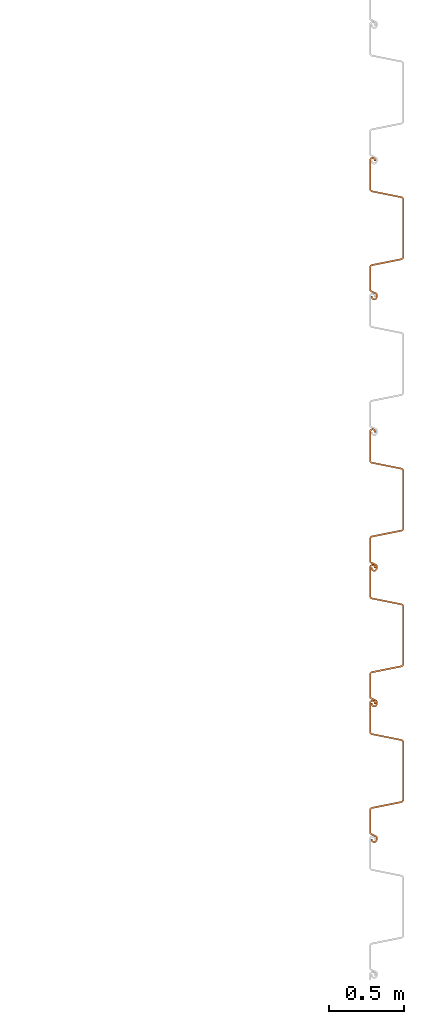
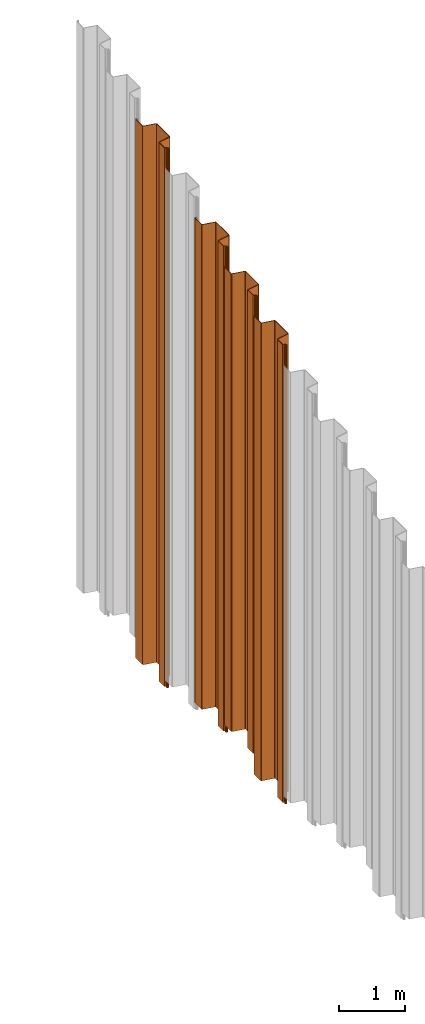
# One storey, part 11 of 12: 4 proxies.
"""IFC2X3 building model written with IfcOpenShell, lengths in millimetres."""

import ifcopenshell
import ifcopenshell.guid

model = None  # the IFC model being written
_history = None  # IfcOwnerHistory: only IFC2X3 demands one
_inside = {}  # id of a spatial element -> (the spatial element, [elements in it])
_under = {}  # id of a project, library or spatial element -> (it, [spatial elements below it])
_declared = {}  # id of a project -> (the project, [libraries it declares])
_typed = {}  # id of a type object -> (the type object, [elements of that type])
_made_of = {}  # id of a material, layer set ... -> (it, [elements and type objects made of it])


def new_model(schema):
    """Start an empty IFC model of exactly this schema.

    Asked for "IFC4X3", IfcOpenShell would pick the latest addendum, in which some entities
    have other attributes; the version numbers below select the first issue.
    IFC2X3 requires an IfcOwnerHistory on every rooted entity: one is made here for all.
    """
    global model, _history
    if schema == "IFC4X3":
        model = ifcopenshell.file(schema_version=(4, 3, 0, 0))
    else:
        model = ifcopenshell.file(schema=schema)
    _inside.clear()
    _under.clear()
    _declared.clear()
    _typed.clear()
    _made_of.clear()
    _history = None
    if model.schema == "IFC2X3":
        org = make("IfcOrganization", Name="unknown")
        user = make(
            "IfcPersonAndOrganization",
            ThePerson=make("IfcPerson", FamilyName="unknown"),
            TheOrganization=org,
        )
        app = make(
            "IfcApplication",
            ApplicationDeveloper=org,
            Version="unknown",
            ApplicationFullName="unknown",
            ApplicationIdentifier="unknown",
        )
        _history = make(
            "IfcOwnerHistory",
            OwningUser=user,
            OwningApplication=app,
            ChangeAction="ADDED",
            CreationDate=0,
        )
    return model


def make(cls, **values):
    """One entity of the class cls with the attributes given. An attribute that is None is left unset."""
    return model.create_entity(
        cls, **{name: value for name, value in values.items() if value is not None}
    )


def entity(cls, *values):
    """Any entity or typed value of the class cls, its attributes in the order of the schema. None: left unset."""
    e = model.create_entity(cls)
    for i, value in enumerate(values):
        if value is not None:
            e[i] = value
    return e


def rooted(cls, **values):
    """An entity with a GlobalId (a new one), such as an element, a storey or a relation."""
    return make(cls, GlobalId=ifcopenshell.guid.new(), OwnerHistory=_history, **values)


def si_unit(unit_type, name, prefix=None):
    """IfcSIUnit, for example si_unit("LENGTHUNIT", "METRE", prefix="MILLI")."""
    return make("IfcSIUnit", UnitType=unit_type, Prefix=prefix, Name=name)


def converted_unit(unit_type, name, factor, base, dimensions=None, offset=None):
    """IfcConversionBasedUnit, such as the inch: factor (a typed value) times the base unit."""
    return make(
        "IfcConversionBasedUnit"
        if offset is None
        else "IfcConversionBasedUnitWithOffset",
        ConversionOffset=offset,
        Dimensions=None
        if dimensions is None
        else entity("IfcDimensionalExponents", *dimensions),
        UnitType=unit_type,
        Name=name,
        ConversionFactor=make(
            "IfcMeasureWithUnit", ValueComponent=factor, UnitComponent=base
        ),
    )


def derived_unit(unit_type, elements):
    """IfcDerivedUnit: a product of units, each with its exponent."""
    return make(
        "IfcDerivedUnit",
        Elements=[
            make("IfcDerivedUnitElement", Unit=unit, Exponent=power)
            for unit, power in elements
        ],
        UnitType=unit_type,
    )


def assignment(units):
    """IfcUnitAssignment: the units of a project."""
    return None if units is None else make("IfcUnitAssignment", Units=units)


def point(xyz):
    """IfcCartesianPoint."""
    return None if xyz is None else make("IfcCartesianPoint", Coordinates=xyz)


def direction(xyz):
    """IfcDirection."""
    return None if xyz is None else make("IfcDirection", DirectionRatios=xyz)


def frame(location, z_axis=None, x_axis=None):
    """IfcAxis2Placement3D, a coordinate frame: its origin and axes. An axis left out is left unset."""
    return make(
        "IfcAxis2Placement3D",
        Location=point(location),
        Axis=direction(z_axis),
        RefDirection=direction(x_axis),
    )


def frame_2d(location, x_axis=None):
    """IfcAxis2Placement2D, a coordinate frame in the plane: its origin and x axis."""
    return make(
        "IfcAxis2Placement2D", Location=point(location), RefDirection=direction(x_axis)
    )


def origin():
    """The frame at (0, 0, 0) with its axes left unset."""
    return frame((0.0, 0.0, 0.0))


def place(relative_to, where):
    """IfcLocalPlacement: puts the frame where relative to a parent placement (None: the world)."""
    return make(
        "IfcLocalPlacement", PlacementRelTo=relative_to, RelativePlacement=where
    )


def context(
    kind, dimensions, precision=None, world=None, true_north=None, identifier=None
):
    """IfcGeometricRepresentationContext, for example the 3D "Model" context."""
    return make(
        "IfcGeometricRepresentationContext",
        ContextIdentifier=identifier,
        ContextType=kind,
        CoordinateSpaceDimension=dimensions,
        Precision=precision,
        WorldCoordinateSystem=world,
        TrueNorth=true_north,
    )


def subcontext(parent, identifier, kind, view, scale=None):
    """IfcGeometricRepresentationSubContext, for example "Body" below "Model"."""
    return make(
        "IfcGeometricRepresentationSubContext",
        ContextIdentifier=identifier,
        ContextType=kind,
        ParentContext=parent,
        TargetScale=scale,
        TargetView=view,
    )


def project(units=None, contexts=None):
    """IfcProject with its units and contexts."""
    return rooted(
        "IfcProject",
        Name="project",
        RepresentationContexts=contexts,
        UnitsInContext=assignment(units),
    )


def spatial(cls, under=None, at=None, **own):
    """A site, building, storey or space (cls), placed at a placement, below another one or the project."""
    s = rooted(cls, ObjectPlacement=at, **own)
    if under is not None:
        _under.setdefault(under.id(), (under, []))[1].append(s)
    return s


def polyline(points):
    """IfcPolyline through the points."""
    return make("IfcPolyline", Points=[point(p) for p in points])


def circle_curve(where, radius):
    """IfcCircle in the frame where."""
    return make("IfcCircle", Position=where, Radius=radius)


def parameter(value):
    """IfcParameterValue: where a trimmed curve begins or ends, as a parameter of its basis curve."""
    return model.create_entity("IfcParameterValue", value)


def trimmed(basis, trim1, trim2, sense, master):
    """IfcTrimmedCurve: the piece of a basis curve between two trims."""
    return make(
        "IfcTrimmedCurve",
        BasisCurve=basis,
        Trim1=trim1,
        Trim2=trim2,
        SenseAgreement=sense,
        MasterRepresentation=master,
    )


def segment(curve, same_sense, transition):
    """IfcCompositeCurveSegment."""
    return make(
        "IfcCompositeCurveSegment",
        Transition=transition,
        SameSense=same_sense,
        ParentCurve=curve,
    )


def composite_curve(segments, self_intersect=None):
    """IfcCompositeCurve: segments joined end to end."""
    return make("IfcCompositeCurve", Segments=segments, SelfIntersect=self_intersect)


def outline(outer, holes=None, kind="AREA"):
    """IfcArbitraryClosedProfileDef: a profile drawn as a closed curve; with holes, ...WithVoids."""
    if holes is None:
        return make("IfcArbitraryClosedProfileDef", ProfileType=kind, OuterCurve=outer)
    return make(
        "IfcArbitraryProfileDefWithVoids",
        ProfileType=kind,
        OuterCurve=outer,
        InnerCurves=holes,
    )


def extrude(swept, where, along, depth):
    """IfcExtrudedAreaSolid: the profile swept, set in the frame where, extruded along a direction by depth."""
    return make(
        "IfcExtrudedAreaSolid",
        SweptArea=swept,
        Position=where,
        ExtrudedDirection=direction(along),
        Depth=depth,
    )


def shape(context_of_items, identifier, shape_type, items):
    """IfcShapeRepresentation: the items that make up one representation, for example the "Body"."""
    return make(
        "IfcShapeRepresentation",
        ContextOfItems=context_of_items,
        RepresentationIdentifier=identifier,
        RepresentationType=shape_type,
        Items=items,
    )


def source(mapping_origin, context_of_items, identifier, shape_type, items):
    """IfcRepresentationMap: a shape defined once, which mapped items show again and again."""
    return make(
        "IfcRepresentationMap",
        MappingOrigin=mapping_origin,
        MappedRepresentation=shape(context_of_items, identifier, shape_type, items),
    )


def transform(
    local_origin,
    x_axis=None,
    y_axis=None,
    z_axis=None,
    scale=None,
    scale2=None,
    scale3=None,
    uniform=True,
):
    """IfcCartesianTransformationOperator3D, or its non-uniform kind. x_axis, y_axis, z_axis: its Axis1, 2, 3."""
    if uniform:
        return make(
            "IfcCartesianTransformationOperator3D",
            Axis1=direction(x_axis),
            Axis2=direction(y_axis),
            LocalOrigin=point(local_origin),
            Scale=scale,
            Axis3=direction(z_axis),
        )
    return make(
        "IfcCartesianTransformationOperator3DnonUniform",
        Axis1=direction(x_axis),
        Axis2=direction(y_axis),
        LocalOrigin=point(local_origin),
        Scale=scale,
        Axis3=direction(z_axis),
        Scale2=scale2,
        Scale3=scale3,
    )


def mapped(mapping_source, mapping_target):
    """IfcMappedItem: shows the shape of a source again, moved by a transform."""
    return make(
        "IfcMappedItem", MappingSource=mapping_source, MappingTarget=mapping_target
    )


def material(Name=None, Category=None):
    """IfcMaterial."""
    return make("IfcMaterial", Name=Name, Category=Category)


def made_of(thing, what):
    """Note that an element or type object is made of a material, layer set ...; save() writes the relation."""
    if what is not None:
        _made_of.setdefault(what.id(), (what, []))[1].append(thing)
    return thing


def type_object(cls, material=None, **own):
    """A type object (cls), such as IfcWallType, which elements share."""
    return made_of(rooted(cls, **own), material)


def type_shapes(of_type, sources):
    """Give a type object the sources (RepresentationMaps) that its elements show as mapped items."""
    of_type.RepresentationMaps = sources


def element(
    cls,
    number,
    at=None,
    inside=None,
    cuts=None,
    type_object=None,
    material=None,
    context=None,
    identifier="Body",
    shape_type=None,
    held_by="IfcProductDefinitionShape",
    body=None,
    shapes=None,
    **own,
):
    """One element of the class cls, such as IfcWall. Its Tag is "e" and its number.

    at: its placement. inside: the storey or other place that contains it. cuts: it is an
    opening in that element (IfcRelVoidsElement). A single representation is given by context,
    identifier, shape_type and body (its items); several are given by shapes. held_by: the class
    of the entity that holds the representations. save() writes the other relations.
    """
    e = rooted(cls, Tag="e%d" % number, ObjectPlacement=at, **own)
    if body is not None:
        shapes = [shape(context, identifier, shape_type, body)]
    if shapes is not None:
        e.Representation = make(held_by, Representations=shapes)
    if inside is not None:
        _inside.setdefault(inside.id(), (inside, []))[1].append(e)
    if cuts is not None:
        rooted(
            "IfcRelVoidsElement", RelatingBuildingElement=cuts, RelatedOpeningElement=e
        )
    if type_object is not None:
        _typed.setdefault(type_object.id(), (type_object, []))[1].append(e)
    return made_of(e, material)


def aggregate(whole, parts):
    """IfcRelAggregates: a whole, such as a stair, and the parts it consists of."""
    return rooted("IfcRelAggregates", RelatingObject=whole, RelatedObjects=parts)


def save(model, path):
    """Write the relations noted so far, then the file.

    IfcRelAggregates (storeys below a building ...), IfcRelContainedInSpatialStructure (elements
    in a storey), IfcRelDefinesByType, IfcRelAssociatesMaterial and IfcRelDeclares: one each for
    every whole, place, type object, material and project.
    """
    for whole, parts in _under.values():
        aggregate(whole, parts)
    for where, things in _inside.values():
        rooted(
            "IfcRelContainedInSpatialStructure",
            RelatedElements=things,
            RelatingStructure=where,
        )
    for kind, things in _typed.values():
        rooted("IfcRelDefinesByType", RelatedObjects=things, RelatingType=kind)
    for what, things in _made_of.values():
        rooted("IfcRelAssociatesMaterial", RelatedObjects=things, RelatingMaterial=what)
    for by, libraries in _declared.values():
        rooted("IfcRelDeclares", RelatingContext=by, RelatedDefinitions=libraries)
    model.write(path)


model = new_model("IFC2X3")

# Units and contexts
model_context = context("Model", 3, precision=0.01, world=origin(), true_north=direction((6.12303176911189e-17, 1.0)))
body_context = subcontext(model_context, "Body", "Model", "MODEL_VIEW")
ifc_project = project(units=[si_unit("LENGTHUNIT", "METRE", prefix="MILLI"), si_unit("AREAUNIT", "SQUARE_METRE"), si_unit("VOLUMEUNIT", "CUBIC_METRE"), converted_unit("PLANEANGLEUNIT", "DEGREE", entity("IfcRatioMeasure", 0.0174532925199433), si_unit("PLANEANGLEUNIT", "RADIAN"), dimensions=[0, 0, 0, 0, 0, 0, 0]), si_unit("MASSUNIT", "GRAM", prefix="KILO"), derived_unit("MASSDENSITYUNIT", [(si_unit("MASSUNIT", "GRAM", prefix="KILO"), 1), (si_unit("LENGTHUNIT", "METRE"), -3)]), derived_unit("MOMENTOFINERTIAUNIT", [(si_unit("LENGTHUNIT", "METRE"), 4)]), si_unit("TIMEUNIT", "SECOND"), si_unit("FREQUENCYUNIT", "HERTZ"), si_unit("THERMODYNAMICTEMPERATUREUNIT", "DEGREE_CELSIUS"), derived_unit("THERMALTRANSMITTANCEUNIT", [(si_unit("MASSUNIT", "GRAM", prefix="KILO"), 1), (si_unit("THERMODYNAMICTEMPERATUREUNIT", "KELVIN"), -1), (si_unit("TIMEUNIT", "SECOND"), -3)]), derived_unit("VOLUMETRICFLOWRATEUNIT", [(si_unit("LENGTHUNIT", "METRE"), 3), (si_unit("TIMEUNIT", "SECOND"), -1)]), si_unit("ELECTRICCURRENTUNIT", "AMPERE"), si_unit("ELECTRICVOLTAGEUNIT", "VOLT"), si_unit("POWERUNIT", "WATT"), si_unit("FORCEUNIT", "NEWTON", prefix="KILO"), si_unit("ILLUMINANCEUNIT", "LUX"), si_unit("LUMINOUSFLUXUNIT", "LUMEN"), si_unit("LUMINOUSINTENSITYUNIT", "CANDELA"), derived_unit("USERDEFINED", [(si_unit("MASSUNIT", "GRAM", prefix="KILO"), -1), (si_unit("LENGTHUNIT", "METRE"), -2), (si_unit("TIMEUNIT", "SECOND"), 3), (si_unit("LUMINOUSFLUXUNIT", "LUMEN"), 1)]), derived_unit("LINEARVELOCITYUNIT", [(si_unit("LENGTHUNIT", "METRE"), 1), (si_unit("TIMEUNIT", "SECOND"), -1)]), si_unit("PRESSUREUNIT", "PASCAL"), derived_unit("USERDEFINED", [(si_unit("LENGTHUNIT", "METRE"), -2), (si_unit("MASSUNIT", "GRAM", prefix="KILO"), 1), (si_unit("TIMEUNIT", "SECOND"), -2)]), derived_unit("LINEARFORCEUNIT", [(si_unit("MASSUNIT", "GRAM", prefix="KILO"), 1), (si_unit("LENGTHUNIT", "METRE"), 1), (si_unit("TIMEUNIT", "SECOND"), -2), (si_unit("LENGTHUNIT", "METRE"), -1)]), derived_unit("PLANARFORCEUNIT", [(si_unit("MASSUNIT", "GRAM", prefix="KILO"), 1), (si_unit("LENGTHUNIT", "METRE"), 1), (si_unit("TIMEUNIT", "SECOND"), -2), (si_unit("LENGTHUNIT", "METRE"), -2)])], contexts=[model_context])

# Site, building, storey
site_placement = place(None, origin())
site = spatial("IfcSite", under=ifc_project, at=site_placement, Name="Default", CompositionType="ELEMENT")
building_placement = place(site_placement, origin())
building = spatial("IfcBuilding", under=site, at=building_placement, CompositionType="ELEMENT")
storey_placement = place(building_placement, frame((0.0, 0.0, 10600.0)))
storey = spatial("IfcBuildingStorey", under=building, at=storey_placement, Name="AP+10.600", CompositionType="ELEMENT", Elevation=10600.0)

# Proxies
ifc_material = material(Name="<Unnamed>")
building_element_proxy_type_1 = type_object("IfcBuildingElementProxyType", Name="鋼矢板10H型:鋼矢板10H型", PredefinedType="NOTDEFINED", material=ifc_material)
shared_shape_1 = source(origin(), body_context, "Body", "SweptSolid", [
    extrude(outline(composite_curve([segment(trimmed(circle_curve(frame_2d((85.3662976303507, 306.644432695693), x_axis=(0.422618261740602, 0.906307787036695)), 13.885714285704), [parameter(24.9999999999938)], [parameter(90.0000000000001)], True, "PARAMETER"), True, "CONTINUOUS"), segment(polyline([(72.7815666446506, 312.512789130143), (9.8129512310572, 177.476157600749)]), True, "CONTINUOUS"), segment(trimmed(circle_curve(frame_2d((29.3891994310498, 168.347603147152), x_axis=(0.422618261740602, 0.906307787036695)), 21.6), [parameter(90.0000000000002)], [parameter(168.69006752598)], True, "PARAMETER"), True, "CONTINUOUS"), segment(polyline([(16.598697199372, 150.941769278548), (175.329723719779, 34.2998683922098)]), True, "CONTINUOUS"), segment(trimmed(circle_curve(frame_2d((168.93447260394, 25.596951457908), x_axis=(0.422618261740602, 0.906307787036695)), 10.7999999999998), [parameter(270.0)], [parameter(348.690067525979)], True, "PARAMETER"), False, "CONTINUOUS"), segment(polyline([(178.722596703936, 21.0326742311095), (18.2974003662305, -323.000269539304)]), True, "CONTINUOUS"), segment(trimmed(circle_curve(frame_2d((8.50927626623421, -318.435992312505), x_axis=(0.422618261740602, 0.906307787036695)), 10.8), [parameter(191.30993247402)], [parameter(269.999999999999)], True, "PARAMETER"), False, "CONTINUOUS"), segment(polyline([(5.95324328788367, -328.929166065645), (-185.429973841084, -282.310113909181)]), True, "CONTINUOUS"), segment(trimmed(circle_curve(frame_2d((-190.542039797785, -303.296461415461), x_axis=(0.422618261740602, 0.906307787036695)), 21.6000000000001), [parameter(11.3099324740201)], [parameter(90.0000000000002)], True, "PARAMETER"), True, "CONTINUOUS"), segment(polyline([(-210.118287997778, -294.167906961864), (-290.330886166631, -466.184378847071)]), True, "CONTINUOUS"), segment(trimmed(circle_curve(frame_2d((-270.754637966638, -475.312933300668), x_axis=(0.422618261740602, 0.906307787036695)), 21.6), [parameter(90.0000000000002)], [parameter(269.999999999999)], True, "PARAMETER"), True, "CONTINUOUS"), segment(polyline([(-251.178389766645, -484.441487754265), (-249.065298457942, -479.909948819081)]), True, "CONTINUOUS"), segment(polyline([(-249.065298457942, -479.909948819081), (-258.853422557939, -475.345671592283)]), True, "CONTINUOUS"), segment(polyline([(-258.853422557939, -475.345671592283), (-260.966513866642, -479.877210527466)]), True, "CONTINUOUS"), segment(trimmed(circle_curve(frame_2d((-270.754637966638, -475.312933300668), x_axis=(0.422618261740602, 0.906307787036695)), 10.8), [parameter(90.0000000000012)], [parameter(270.0)], True, "PARAMETER"), False, "CONTINUOUS"), segment(polyline([(-280.542762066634, -470.748656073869), (-200.330163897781, -298.732184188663)]), True, "CONTINUOUS"), segment(trimmed(circle_curve(frame_2d((-190.542039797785, -303.296461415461), x_axis=(0.422618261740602, 0.906307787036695)), 10.8), [parameter(11.3099324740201)], [parameter(89.9999999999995)], True, "PARAMETER"), False, "CONTINUOUS"), segment(polyline([(-187.986006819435, -292.803287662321), (3.39721030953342, -339.422339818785)]), True, "CONTINUOUS"), segment(trimmed(circle_curve(frame_2d((8.50927626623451, -318.435992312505), x_axis=(0.422618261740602, 0.906307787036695)), 21.6), [parameter(191.30993247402)], [parameter(270.0)], True, "PARAMETER"), True, "CONTINUOUS"), segment(polyline([(28.0855244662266, -327.564546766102), (188.510720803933, 16.4683970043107)]), True, "CONTINUOUS"), segment(trimmed(circle_curve(frame_2d((168.93447260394, 25.5969514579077), x_axis=(0.422618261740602, 0.906307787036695)), 21.6), [parameter(270.0)], [parameter(348.69006752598)], True, "PARAMETER"), True, "CONTINUOUS"), segment(polyline([(181.724974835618, 43.0027853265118), (22.9939483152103, 159.644686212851)]), True, "CONTINUOUS"), segment(trimmed(circle_curve(frame_2d((29.3891994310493, 168.347603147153), x_axis=(0.422618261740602, 0.906307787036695)), 10.7999999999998), [parameter(89.9999999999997)], [parameter(168.690067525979)], True, "PARAMETER"), False, "CONTINUOUS"), segment(polyline([(19.6010753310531, 172.911880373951), (82.5696907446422, 307.948511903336)]), True, "CONTINUOUS"), segment(trimmed(circle_curve(frame_2d((85.3662976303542, 306.64443269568), x_axis=(0.422618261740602, 0.906307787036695)), 3.08571428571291), [parameter(25.0000000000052)], [parameter(90.0000000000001)], True, "PARAMETER"), False, "CONTINUOUS"), segment(polyline([(85.3662976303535, 309.730146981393), (122.220231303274, 309.730146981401)]), True, "CONTINUOUS"), segment(trimmed(circle_curve(frame_2d((122.220231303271, 323.615861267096), x_axis=(0.422618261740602, 0.906307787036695)), 13.8857142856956), [parameter(205.000000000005)], [parameter(270.0)], True, "PARAMETER"), True, "CONTINUOUS"), segment(polyline([(134.804962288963, 317.747504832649), (141.079261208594, 331.202782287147)]), True, "CONTINUOUS"), segment(trimmed(circle_curve(frame_2d((121.503013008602, 340.331336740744), x_axis=(0.422618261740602, 0.906307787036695)), 21.6), [parameter(270.0)], [parameter(90.0000000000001)], True, "PARAMETER"), True, "CONTINUOUS"), segment(polyline([(101.926764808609, 349.459891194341), (99.8136734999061, 344.928352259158)]), True, "CONTINUOUS"), segment(polyline([(99.8136734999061, 344.928352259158), (109.601797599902, 340.364075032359)]), True, "CONTINUOUS"), segment(polyline([(109.601797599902, 340.364075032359), (111.714888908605, 344.895613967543)]), True, "CONTINUOUS"), segment(trimmed(circle_curve(frame_2d((121.503013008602, 340.331336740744), x_axis=(0.422618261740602, 0.906307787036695)), 10.8), [parameter(270.0)], [parameter(89.9999999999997)], True, "PARAMETER"), False, "CONTINUOUS"), segment(polyline([(131.291137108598, 335.767059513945), (125.01683818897, 322.311782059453)]), True, "CONTINUOUS"), segment(trimmed(circle_curve(frame_2d((122.220231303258, 323.615861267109), x_axis=(0.422618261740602, 0.906307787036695)), 3.08571428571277), [parameter(204.999999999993)], [parameter(270.0)], True, "PARAMETER"), False, "CONTINUOUS"), segment(polyline([(122.220231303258, 320.530146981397), (85.3662976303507, 320.530146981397)]), True, "CONTINUOUS")], self_intersect=False)), frame((95.205667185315, -48.8888888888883, -8500.0), z_axis=(0.0, 0.0, -1.0), x_axis=(0.4226182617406, 0.906307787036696, 0.0)), (0.0, 0.0, -1.0), 8500.0),
])
type_shapes(building_element_proxy_type_1, [shared_shape_1])
for number, where, z_axis, x_axis in (
    (1, (89754.0, -4895.0, 3694.15268431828), (0.0, 0.0, 1.0), (0.0, -1.0, 0.0)),
    (2, (89754.0, -5795.0, 3326.25268431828), (0.0, 0.0, 1.0), (0.0, -1.0, 0.0)),
):
    element("IfcBuildingElementProxy", number, at=place(storey_placement, frame(where, z_axis=z_axis, x_axis=x_axis)), inside=storey, type_object=building_element_proxy_type_1, material=ifc_material, Name="鋼矢板10H型:鋼矢板10H型", ObjectType="鋼矢板10H型:鋼矢板10H型", context=body_context, shape_type="MappedRepresentation", body=[
        mapped(shared_shape_1, transform((0.0, 0.0, 0.0), scale=1.0)),
    ])
building_element_proxy_type_2 = type_object("IfcBuildingElementProxyType", Name="鋼矢板10H型:鋼矢板10H型", PredefinedType="NOTDEFINED", material=ifc_material)
shared_shape_2 = source(origin(), body_context, "Body", "SweptSolid", [
    extrude(outline(composite_curve([segment(trimmed(circle_curve(frame_2d((85.3662976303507, 306.644432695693), x_axis=(0.422618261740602, 0.906307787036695)), 13.885714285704), [parameter(24.9999999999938)], [parameter(90.0000000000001)], True, "PARAMETER"), True, "CONTINUOUS"), segment(polyline([(72.7815666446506, 312.512789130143), (9.8129512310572, 177.476157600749)]), True, "CONTINUOUS"), segment(trimmed(circle_curve(frame_2d((29.3891994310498, 168.347603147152), x_axis=(0.422618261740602, 0.906307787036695)), 21.6), [parameter(90.0000000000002)], [parameter(168.69006752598)], True, "PARAMETER"), True, "CONTINUOUS"), segment(polyline([(16.598697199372, 150.941769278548), (175.329723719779, 34.2998683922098)]), True, "CONTINUOUS"), segment(trimmed(circle_curve(frame_2d((168.93447260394, 25.596951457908), x_axis=(0.422618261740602, 0.906307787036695)), 10.7999999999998), [parameter(270.0)], [parameter(348.690067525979)], True, "PARAMETER"), False, "CONTINUOUS"), segment(polyline([(178.722596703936, 21.0326742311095), (18.2974003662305, -323.000269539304)]), True, "CONTINUOUS"), segment(trimmed(circle_curve(frame_2d((8.50927626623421, -318.435992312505), x_axis=(0.422618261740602, 0.906307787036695)), 10.8), [parameter(191.30993247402)], [parameter(269.999999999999)], True, "PARAMETER"), False, "CONTINUOUS"), segment(polyline([(5.95324328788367, -328.929166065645), (-185.429973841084, -282.310113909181)]), True, "CONTINUOUS"), segment(trimmed(circle_curve(frame_2d((-190.542039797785, -303.296461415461), x_axis=(0.422618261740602, 0.906307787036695)), 21.6000000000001), [parameter(11.3099324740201)], [parameter(90.0000000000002)], True, "PARAMETER"), True, "CONTINUOUS"), segment(polyline([(-210.118287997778, -294.167906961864), (-290.330886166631, -466.184378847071)]), True, "CONTINUOUS"), segment(trimmed(circle_curve(frame_2d((-270.754637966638, -475.312933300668), x_axis=(0.422618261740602, 0.906307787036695)), 21.6), [parameter(90.0000000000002)], [parameter(269.999999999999)], True, "PARAMETER"), True, "CONTINUOUS"), segment(polyline([(-251.178389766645, -484.441487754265), (-249.065298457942, -479.909948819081)]), True, "CONTINUOUS"), segment(polyline([(-249.065298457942, -479.909948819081), (-258.853422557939, -475.345671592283)]), True, "CONTINUOUS"), segment(polyline([(-258.853422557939, -475.345671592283), (-260.966513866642, -479.877210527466)]), True, "CONTINUOUS"), segment(trimmed(circle_curve(frame_2d((-270.754637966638, -475.312933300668), x_axis=(0.422618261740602, 0.906307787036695)), 10.8), [parameter(90.0000000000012)], [parameter(270.0)], True, "PARAMETER"), False, "CONTINUOUS"), segment(polyline([(-280.542762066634, -470.748656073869), (-200.330163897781, -298.732184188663)]), True, "CONTINUOUS"), segment(trimmed(circle_curve(frame_2d((-190.542039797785, -303.296461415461), x_axis=(0.422618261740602, 0.906307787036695)), 10.8), [parameter(11.3099324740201)], [parameter(89.9999999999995)], True, "PARAMETER"), False, "CONTINUOUS"), segment(polyline([(-187.986006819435, -292.803287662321), (3.39721030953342, -339.422339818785)]), True, "CONTINUOUS"), segment(trimmed(circle_curve(frame_2d((8.50927626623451, -318.435992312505), x_axis=(0.422618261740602, 0.906307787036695)), 21.6), [parameter(191.30993247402)], [parameter(270.0)], True, "PARAMETER"), True, "CONTINUOUS"), segment(polyline([(28.0855244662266, -327.564546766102), (188.510720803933, 16.4683970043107)]), True, "CONTINUOUS"), segment(trimmed(circle_curve(frame_2d((168.93447260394, 25.5969514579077), x_axis=(0.422618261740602, 0.906307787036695)), 21.6), [parameter(270.0)], [parameter(348.69006752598)], True, "PARAMETER"), True, "CONTINUOUS"), segment(polyline([(181.724974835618, 43.0027853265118), (22.9939483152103, 159.644686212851)]), True, "CONTINUOUS"), segment(trimmed(circle_curve(frame_2d((29.3891994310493, 168.347603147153), x_axis=(0.422618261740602, 0.906307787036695)), 10.7999999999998), [parameter(89.9999999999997)], [parameter(168.690067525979)], True, "PARAMETER"), False, "CONTINUOUS"), segment(polyline([(19.6010753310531, 172.911880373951), (82.5696907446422, 307.948511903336)]), True, "CONTINUOUS"), segment(trimmed(circle_curve(frame_2d((85.3662976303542, 306.64443269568), x_axis=(0.422618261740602, 0.906307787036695)), 3.08571428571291), [parameter(25.0000000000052)], [parameter(90.0000000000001)], True, "PARAMETER"), False, "CONTINUOUS"), segment(polyline([(85.3662976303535, 309.730146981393), (122.220231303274, 309.730146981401)]), True, "CONTINUOUS"), segment(trimmed(circle_curve(frame_2d((122.220231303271, 323.615861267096), x_axis=(0.422618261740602, 0.906307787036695)), 13.8857142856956), [parameter(205.000000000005)], [parameter(270.0)], True, "PARAMETER"), True, "CONTINUOUS"), segment(polyline([(134.804962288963, 317.747504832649), (141.079261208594, 331.202782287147)]), True, "CONTINUOUS"), segment(trimmed(circle_curve(frame_2d((121.503013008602, 340.331336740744), x_axis=(0.422618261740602, 0.906307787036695)), 21.6), [parameter(270.0)], [parameter(90.0000000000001)], True, "PARAMETER"), True, "CONTINUOUS"), segment(polyline([(101.926764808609, 349.459891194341), (99.8136734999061, 344.928352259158)]), True, "CONTINUOUS"), segment(polyline([(99.8136734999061, 344.928352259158), (109.601797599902, 340.364075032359)]), True, "CONTINUOUS"), segment(polyline([(109.601797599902, 340.364075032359), (111.714888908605, 344.895613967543)]), True, "CONTINUOUS"), segment(trimmed(circle_curve(frame_2d((121.503013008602, 340.331336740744), x_axis=(0.422618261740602, 0.906307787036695)), 10.8), [parameter(270.0)], [parameter(89.9999999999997)], True, "PARAMETER"), False, "CONTINUOUS"), segment(polyline([(131.291137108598, 335.767059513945), (125.01683818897, 322.311782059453)]), True, "CONTINUOUS"), segment(trimmed(circle_curve(frame_2d((122.220231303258, 323.615861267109), x_axis=(0.422618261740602, 0.906307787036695)), 3.08571428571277), [parameter(204.999999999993)], [parameter(270.0)], True, "PARAMETER"), False, "CONTINUOUS"), segment(polyline([(122.220231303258, 320.530146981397), (85.3662976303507, 320.530146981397)]), True, "CONTINUOUS")], self_intersect=False)), frame((95.205667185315, -48.8888888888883, -9000.0), z_axis=(0.0, 0.0, -1.0), x_axis=(0.4226182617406, 0.906307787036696, 0.0)), (0.0, 0.0, -1.0), 9000.0),
])
type_shapes(building_element_proxy_type_2, [shared_shape_2])
proxy_1_placement = place(storey_placement, frame((89754.0, -3995.0, 4062.05268431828), z_axis=(0.0, 0.0, 1.0), x_axis=(0.0, -1.0, 0.0)))
element("IfcBuildingElementProxy", 3, at=proxy_1_placement, inside=storey, type_object=building_element_proxy_type_2, material=ifc_material, Name="鋼矢板10H型:鋼矢板10H型", ObjectType="鋼矢板10H型:鋼矢板10H型", context=body_context, shape_type="MappedRepresentation", body=[
    mapped(shared_shape_2, transform((0.0, 0.0, 0.0), scale=1.0)),
])
building_element_proxy_type_3 = type_object("IfcBuildingElementProxyType", Name="鋼矢板10H型:鋼矢板10H型", PredefinedType="NOTDEFINED", material=ifc_material)
shared_shape_3 = source(origin(), body_context, "Body", "SweptSolid", [
    extrude(outline(composite_curve([segment(trimmed(circle_curve(frame_2d((85.3662976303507, 306.644432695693), x_axis=(0.422618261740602, 0.906307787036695)), 13.885714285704), [parameter(24.9999999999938)], [parameter(90.0000000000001)], True, "PARAMETER"), True, "CONTINUOUS"), segment(polyline([(72.7815666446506, 312.512789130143), (9.8129512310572, 177.476157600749)]), True, "CONTINUOUS"), segment(trimmed(circle_curve(frame_2d((29.3891994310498, 168.347603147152), x_axis=(0.422618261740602, 0.906307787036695)), 21.6), [parameter(90.0000000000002)], [parameter(168.69006752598)], True, "PARAMETER"), True, "CONTINUOUS"), segment(polyline([(16.598697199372, 150.941769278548), (175.329723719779, 34.2998683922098)]), True, "CONTINUOUS"), segment(trimmed(circle_curve(frame_2d((168.93447260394, 25.596951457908), x_axis=(0.422618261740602, 0.906307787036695)), 10.7999999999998), [parameter(270.0)], [parameter(348.690067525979)], True, "PARAMETER"), False, "CONTINUOUS"), segment(polyline([(178.722596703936, 21.0326742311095), (18.2974003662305, -323.000269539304)]), True, "CONTINUOUS"), segment(trimmed(circle_curve(frame_2d((8.50927626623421, -318.435992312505), x_axis=(0.422618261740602, 0.906307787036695)), 10.8), [parameter(191.30993247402)], [parameter(269.999999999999)], True, "PARAMETER"), False, "CONTINUOUS"), segment(polyline([(5.95324328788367, -328.929166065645), (-185.429973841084, -282.310113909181)]), True, "CONTINUOUS"), segment(trimmed(circle_curve(frame_2d((-190.542039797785, -303.296461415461), x_axis=(0.422618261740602, 0.906307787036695)), 21.6000000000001), [parameter(11.3099324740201)], [parameter(90.0000000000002)], True, "PARAMETER"), True, "CONTINUOUS"), segment(polyline([(-210.118287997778, -294.167906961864), (-290.330886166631, -466.184378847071)]), True, "CONTINUOUS"), segment(trimmed(circle_curve(frame_2d((-270.754637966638, -475.312933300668), x_axis=(0.422618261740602, 0.906307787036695)), 21.6), [parameter(90.0000000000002)], [parameter(269.999999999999)], True, "PARAMETER"), True, "CONTINUOUS"), segment(polyline([(-251.178389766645, -484.441487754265), (-249.065298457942, -479.909948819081)]), True, "CONTINUOUS"), segment(polyline([(-249.065298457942, -479.909948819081), (-258.853422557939, -475.345671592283)]), True, "CONTINUOUS"), segment(polyline([(-258.853422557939, -475.345671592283), (-260.966513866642, -479.877210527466)]), True, "CONTINUOUS"), segment(trimmed(circle_curve(frame_2d((-270.754637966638, -475.312933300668), x_axis=(0.422618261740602, 0.906307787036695)), 10.8), [parameter(90.0000000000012)], [parameter(270.0)], True, "PARAMETER"), False, "CONTINUOUS"), segment(polyline([(-280.542762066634, -470.748656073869), (-200.330163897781, -298.732184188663)]), True, "CONTINUOUS"), segment(trimmed(circle_curve(frame_2d((-190.542039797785, -303.296461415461), x_axis=(0.422618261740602, 0.906307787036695)), 10.8), [parameter(11.3099324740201)], [parameter(89.9999999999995)], True, "PARAMETER"), False, "CONTINUOUS"), segment(polyline([(-187.986006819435, -292.803287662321), (3.39721030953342, -339.422339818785)]), True, "CONTINUOUS"), segment(trimmed(circle_curve(frame_2d((8.50927626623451, -318.435992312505), x_axis=(0.422618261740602, 0.906307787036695)), 21.6), [parameter(191.30993247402)], [parameter(270.0)], True, "PARAMETER"), True, "CONTINUOUS"), segment(polyline([(28.0855244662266, -327.564546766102), (188.510720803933, 16.4683970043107)]), True, "CONTINUOUS"), segment(trimmed(circle_curve(frame_2d((168.93447260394, 25.5969514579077), x_axis=(0.422618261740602, 0.906307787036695)), 21.6), [parameter(270.0)], [parameter(348.69006752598)], True, "PARAMETER"), True, "CONTINUOUS"), segment(polyline([(181.724974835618, 43.0027853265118), (22.9939483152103, 159.644686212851)]), True, "CONTINUOUS"), segment(trimmed(circle_curve(frame_2d((29.3891994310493, 168.347603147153), x_axis=(0.422618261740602, 0.906307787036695)), 10.7999999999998), [parameter(89.9999999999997)], [parameter(168.690067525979)], True, "PARAMETER"), False, "CONTINUOUS"), segment(polyline([(19.6010753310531, 172.911880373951), (82.5696907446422, 307.948511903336)]), True, "CONTINUOUS"), segment(trimmed(circle_curve(frame_2d((85.3662976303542, 306.64443269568), x_axis=(0.422618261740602, 0.906307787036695)), 3.08571428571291), [parameter(25.0000000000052)], [parameter(90.0000000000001)], True, "PARAMETER"), False, "CONTINUOUS"), segment(polyline([(85.3662976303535, 309.730146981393), (122.220231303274, 309.730146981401)]), True, "CONTINUOUS"), segment(trimmed(circle_curve(frame_2d((122.220231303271, 323.615861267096), x_axis=(0.422618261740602, 0.906307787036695)), 13.8857142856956), [parameter(205.000000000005)], [parameter(270.0)], True, "PARAMETER"), True, "CONTINUOUS"), segment(polyline([(134.804962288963, 317.747504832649), (141.079261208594, 331.202782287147)]), True, "CONTINUOUS"), segment(trimmed(circle_curve(frame_2d((121.503013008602, 340.331336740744), x_axis=(0.422618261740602, 0.906307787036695)), 21.6), [parameter(270.0)], [parameter(90.0000000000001)], True, "PARAMETER"), True, "CONTINUOUS"), segment(polyline([(101.926764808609, 349.459891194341), (99.8136734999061, 344.928352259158)]), True, "CONTINUOUS"), segment(polyline([(99.8136734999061, 344.928352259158), (109.601797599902, 340.364075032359)]), True, "CONTINUOUS"), segment(polyline([(109.601797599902, 340.364075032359), (111.714888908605, 344.895613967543)]), True, "CONTINUOUS"), segment(trimmed(circle_curve(frame_2d((121.503013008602, 340.331336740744), x_axis=(0.422618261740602, 0.906307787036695)), 10.8), [parameter(270.0)], [parameter(89.9999999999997)], True, "PARAMETER"), False, "CONTINUOUS"), segment(polyline([(131.291137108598, 335.767059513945), (125.01683818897, 322.311782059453)]), True, "CONTINUOUS"), segment(trimmed(circle_curve(frame_2d((122.220231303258, 323.615861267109), x_axis=(0.422618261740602, 0.906307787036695)), 3.08571428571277), [parameter(204.999999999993)], [parameter(270.0)], True, "PARAMETER"), False, "CONTINUOUS"), segment(polyline([(122.220231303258, 320.530146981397), (85.3662976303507, 320.530146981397)]), True, "CONTINUOUS")], self_intersect=False)), frame((95.205667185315, -48.8888888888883, -10000.0), z_axis=(0.0, 0.0, -1.0), x_axis=(0.4226182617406, 0.906307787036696, 0.0)), (0.0, 0.0, -1.0), 10000.0),
])
type_shapes(building_element_proxy_type_3, [shared_shape_3])
proxy_2_placement = place(storey_placement, frame((89754.0, -2195.0, 4797.85268431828), z_axis=(0.0, 0.0, 1.0), x_axis=(0.0, -1.0, 0.0)))
element("IfcBuildingElementProxy", 4, at=proxy_2_placement, inside=storey, type_object=building_element_proxy_type_3, material=ifc_material, Name="鋼矢板10H型:鋼矢板10H型", ObjectType="鋼矢板10H型:鋼矢板10H型", context=body_context, shape_type="MappedRepresentation", body=[
    mapped(shared_shape_3, transform((0.0, 0.0, 0.0), scale=1.0)),
])

save(model, "model.ifc")
